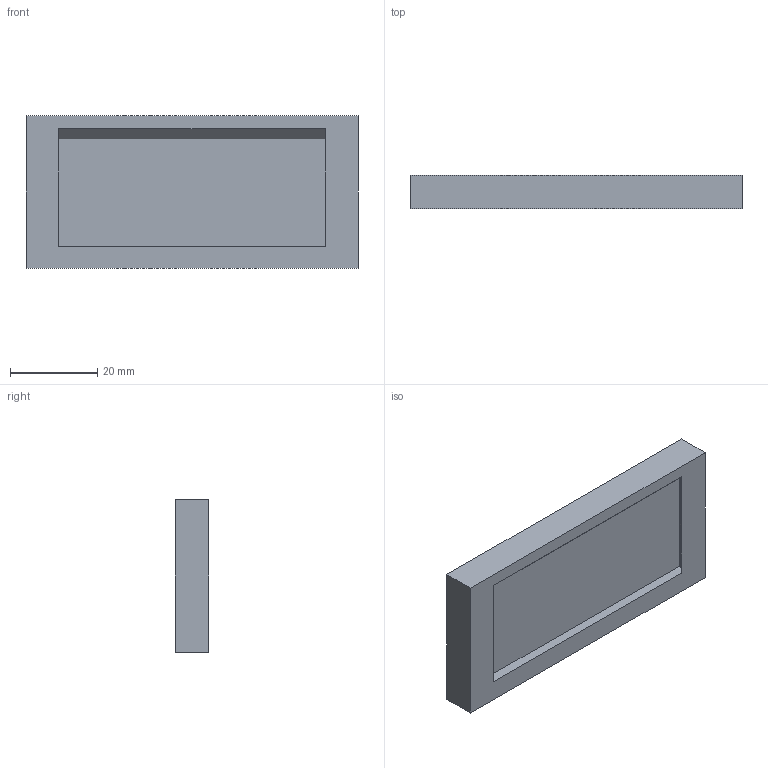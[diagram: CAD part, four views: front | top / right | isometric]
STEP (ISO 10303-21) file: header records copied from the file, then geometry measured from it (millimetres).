
FILE_DESCRIPTION(('Open CASCADE Model'),'2;1');
FILE_NAME('Open CASCADE Shape Model','2026-11-02T05:02:36',('Author'),( 'Open CASCADE'),'Open CASCADE STEP processor 7.8','Open CASCADE 7.8' ,'Unknown');
FILE_SCHEMA(('AUTOMOTIVE_DESIGN { 1 0 10303 214 1 1 1 1 }'));
Length unit declared in the file: millimetre
Products named in the file (1): Open CASCADE STEP translator 7.8 4
Bounding box: 76 x 7.65 x 35 mm (x, y, z)
Volume: 16618.9 mm3; surface area: 7455.6 mm2
Topology: 1 solids, 1 shells, 13 faces, 30 edges, 20 vertices
Faces by surface type: plane 11, cylinder 2
Entity records: 772 total; most frequent: CARTESIAN_POINT 162, DIRECTION 106, LINE 68, VECTOR 68, ORIENTED_EDGE 60, PCURVE 60, DEFINITIONAL_REPRESENTATION 60, EDGE_CURVE 30
